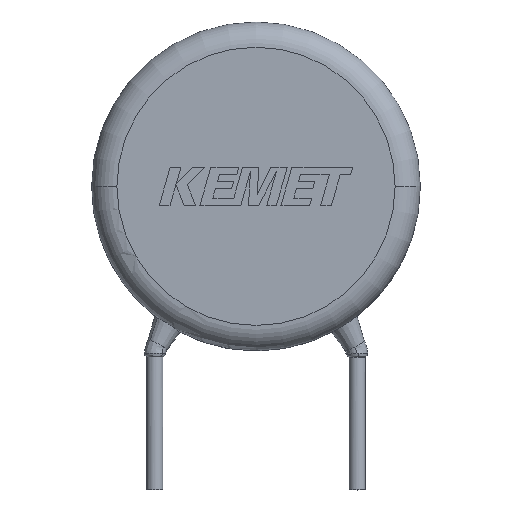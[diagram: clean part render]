
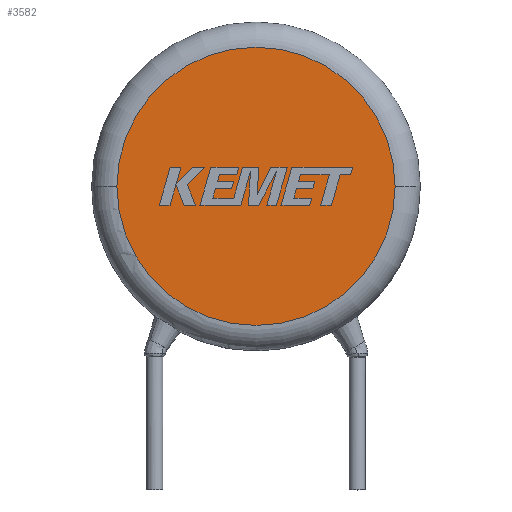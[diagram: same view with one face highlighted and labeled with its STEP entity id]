
A CAD part, top view. The second image highlights one B-rep face of the part: STEP entity #3582.
In plain terms, the highlighted planar face has unit normal (0, 0, 1).
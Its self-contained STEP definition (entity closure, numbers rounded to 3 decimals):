
#50 = PLANE ( 'NONE',  #3804 ) ;
#96 = DIRECTION ( 'NONE',  ( 0., 0., 1. ) ) ;
#166 = CIRCLE ( 'NONE', #488, 5.5 ) ;
#253 = VERTEX_POINT ( 'NONE', #2831 ) ;
#443 = DIRECTION ( 'NONE',  ( 1., 0., 0. ) ) ;
#488 = AXIS2_PLACEMENT_3D ( 'NONE', #509, #3440, #2457 ) ;
#509 = CARTESIAN_POINT ( 'NONE',  ( 0., 0., 5. ) ) ;
#532 = VERTEX_POINT ( 'NONE', #3639 ) ;
#724 = EDGE_CURVE ( 'NONE', #532, #253, #3171, .T. ) ;
#825 = AXIS2_PLACEMENT_3D ( 'NONE', #1623, #3535, #1583 ) ;
#919 = FACE_OUTER_BOUND ( 'NONE', #4196, .T. ) ;
#1050 = ORIENTED_EDGE ( 'NONE', *, *, #3169, .T. ) ;
#1583 = DIRECTION ( 'NONE',  ( 1., 0., 0. ) ) ;
#1623 = CARTESIAN_POINT ( 'NONE',  ( 0., 0., 5. ) ) ;
#2457 = DIRECTION ( 'NONE',  ( 1., 0., 0. ) ) ;
#2693 = CARTESIAN_POINT ( 'NONE',  ( 0., 0., 5. ) ) ;
#2831 = CARTESIAN_POINT ( 'NONE',  ( -5.5, 0., 5. ) ) ;
#3169 = EDGE_CURVE ( 'NONE', #253, #532, #166, .T. ) ;
#3171 = CIRCLE ( 'NONE', #825, 5.5 ) ;
#3440 = DIRECTION ( 'NONE',  ( 0., 0., 1. ) ) ;
#3535 = DIRECTION ( 'NONE',  ( 0., 0., 1. ) ) ;
#3582 = ADVANCED_FACE ( 'NONE', ( #919 ), #50, .T. ) ;
#3639 = CARTESIAN_POINT ( 'NONE',  ( 5.5, 0., 5. ) ) ;
#3804 = AXIS2_PLACEMENT_3D ( 'NONE', #2693, #96, #443 ) ;
#4083 = ORIENTED_EDGE ( 'NONE', *, *, #724, .T. ) ;
#4196 = EDGE_LOOP ( 'NONE', ( #4083, #1050 ) ) ;
